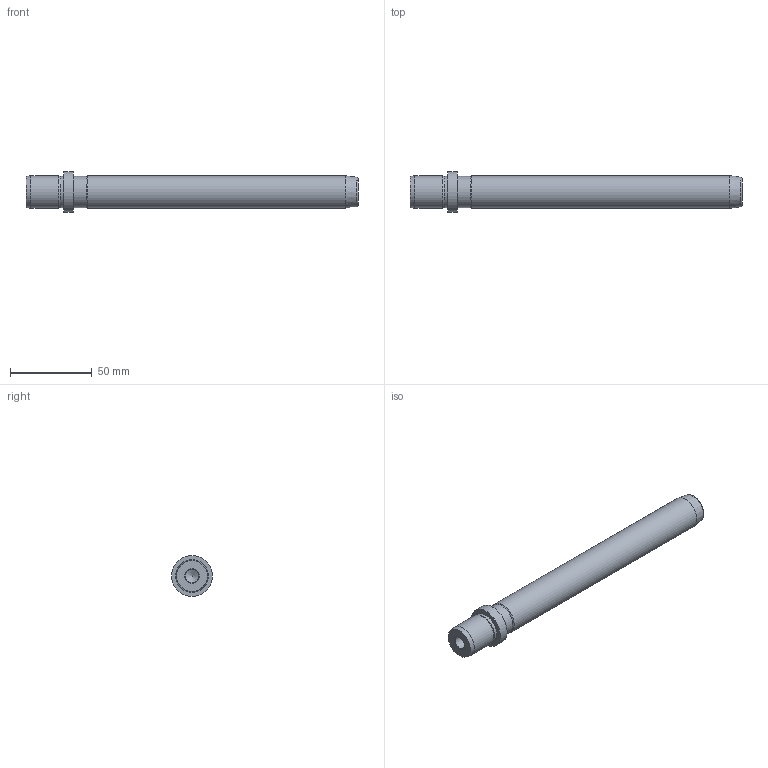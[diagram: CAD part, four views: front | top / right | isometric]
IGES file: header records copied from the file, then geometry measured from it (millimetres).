
Global section: file name: CEAQ20180.ipt; native system: Autodesk Inventor 2021; preprocessor: unknown; author: SM; date: 20211206.133309; units: millimetre
Bounding box: 203 x 25 x 25 mm (x, y, z)
Volume: 61519.1 mm3; surface area: 15050.8 mm2
Topology: 1 solids, 1 shells, 20 faces, 45 edges, 29 vertices
Faces by surface type: revolution 5, cylinder 5, cone 4, plane 4, bspline 2
Full cylindrical faces by diameter (mm): 19 x2, 20 x2, 25 x1
